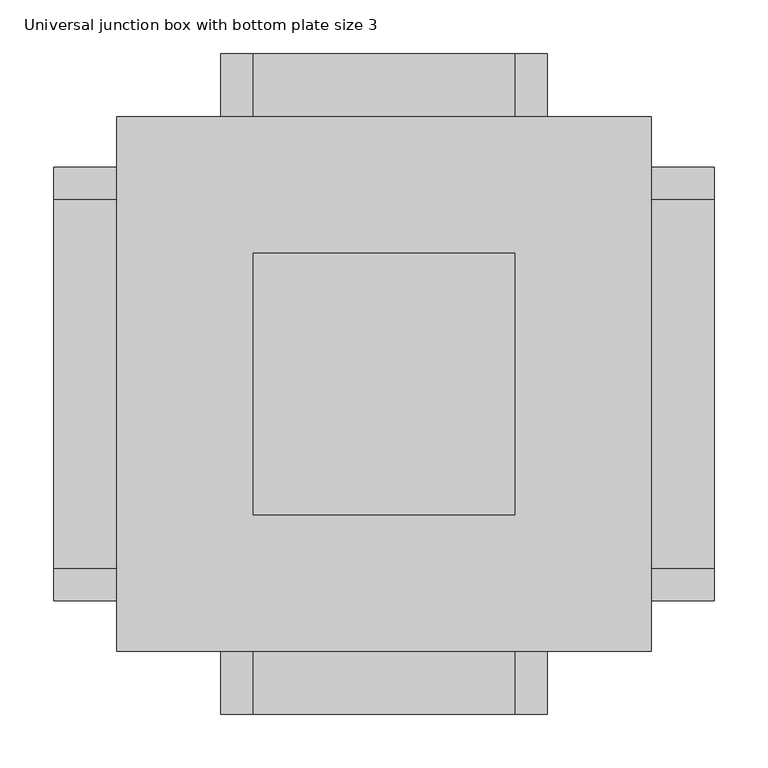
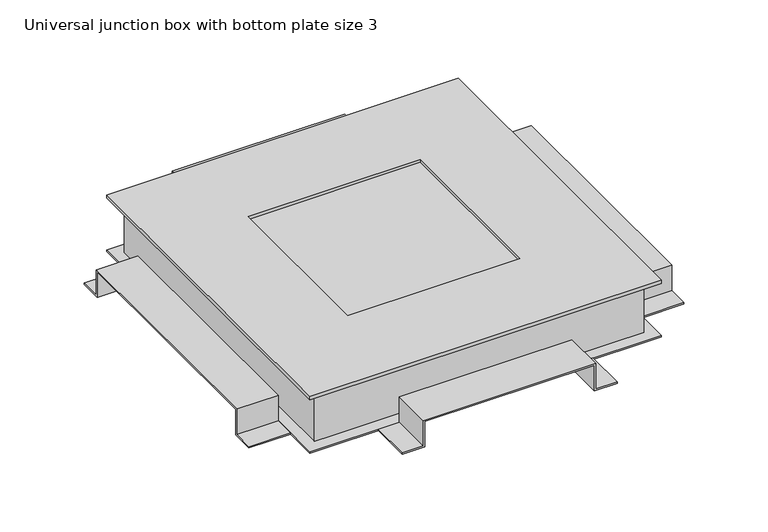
"""IFC4 building model written with IfcOpenShell, lengths in millimetres: cable carrier fitting geometry, Electrical-Installations_Hager_Universal-Junction-Box-With-Bottom-Plate-Size-3 : Universal junction box with bottom plate size 3."""

from ifc_helpers import new_model, si_unit, frame, origin, place, context, project, spatial, polyline, outline, extrude, faceted_brep, source, transform, mapped, element, save


def universal_junction_box_with_bottom_plate_size_3_beba6617(model_context):
    return source(origin(), model_context, "Body", "SolidModel", [
        extrude(outline(polyline([(-19.0, -152.0), (-19.0, -120.0), (19.0, -120.0), (19.0, 120.0), (-19.0, 120.0), (-19.0, 152.0), (-17.0, 152.0), (-17.0, 122.0), (21.0, 122.0), (21.0, -122.0), (-17.0, -122.0), (-17.0, -152.0), (-19.0, -152.0)])), frame((0.0, 249.0, 0.0), z_axis=(0.0, 1.0, 0.0), x_axis=(0.0, 0.0, 1.0)), (0.0, 0.0, 1.0), 59.0),
        extrude(outline(polyline([(-202.0, -19.0), (-202.0, -17.0), (-172.0, -17.0), (-172.0, 21.0), (172.0, 21.0), (172.0, -17.0), (202.0, -17.0), (202.0, -19.0), (170.0, -19.0), (170.0, 19.0), (-170.0, 19.0), (-170.0, -19.0), (-202.0, -19.0)])), frame((-308.0, 0.0, 0.0), z_axis=(1.0, 0.0, 0.0), x_axis=(0.0, 1.0, 0.0)), (0.0, 0.0, 1.0), 59.0),
        extrude(outline(polyline([(-19.0, -152.0), (-19.0, -120.0), (19.0, -120.0), (19.0, 120.0), (-19.0, 120.0), (-19.0, 152.0), (-17.0, 152.0), (-17.0, 122.0), (21.0, 122.0), (21.0, -122.0), (-17.0, -122.0), (-17.0, -152.0), (-19.0, -152.0)])), frame((0.0, -308.0, 0.0), z_axis=(0.0, 1.0, 0.0), x_axis=(0.0, 0.0, 1.0)), (0.0, 0.0, 1.0), 59.0),
        extrude(outline(polyline([(-202.0, -19.0), (-202.0, -17.0), (-172.0, -17.0), (-172.0, 21.0), (172.0, 21.0), (172.0, -17.0), (202.0, -17.0), (202.0, -19.0), (170.0, -19.0), (170.0, 19.0), (-170.0, 19.0), (-170.0, -19.0), (-202.0, -19.0)])), frame((249.0, 0.0, 0.0), z_axis=(1.0, 0.0, 0.0), x_axis=(0.0, 1.0, 0.0)), (0.0, 0.0, 1.0), 59.0),
        faceted_brep([(-249.0, -249.0, 66.0), (249.0, -249.0, 66.0), (249.0, 249.0, 66.0), (-249.0, 249.0, 66.0), (-122.0, 122.0, 66.0), (122.0, 122.0, 66.0), (122.0, -122.0, 66.0), (-122.0, -122.0, 66.0), (-249.0, -249.0, 61.0), (-249.0, 249.0, 61.0), (249.0, 249.0, 61.0), (249.0, -249.0, 61.0), (227.0, 227.0, 61.0), (-227.0, 227.0, 61.0), (-227.0, -227.0, 61.0), (227.0, -227.0, 61.0), (-122.0, 122.0, 61.7820613), (122.0, 122.0, 61.7820613), (122.0, -122.0, 61.7820613), (-122.0, -122.0, 61.7820613), (227.0, 227.0, 61.7820613), (227.0, -227.0, 61.7820613), (-227.0, -227.0, 61.7820613), (-227.0, 227.0, 61.7820613)], [[[0, 1, 2, 3], [4, 5, 6, 7]], [[8, 9, 10, 11], [12, 13, 14, 15]], [[1, 0, 8, 11]], [[2, 1, 11, 10]], [[3, 2, 10, 9]], [[0, 3, 9, 8]], [[5, 4, 16, 17]], [[6, 5, 17, 18]], [[7, 6, 18, 19]], [[4, 7, 19, 16]], [[20, 21, 22, 23], [17, 16, 19, 18]], [[20, 23, 13, 12]], [[23, 22, 14, 13]], [[22, 21, 15, 14]], [[21, 20, 12, 15]]]),
        extrude(outline(polyline([(249.0, 249.0), (249.0, -249.0), (-249.0, -249.0), (-249.0, 249.0), (249.0, 249.0)])), frame((0.0, 0.0, -19.0), z_axis=(0.0, 0.0, 1.0), x_axis=(1.0, 0.0, 0.0)), (0.0, 0.0, 1.0), 2.0),
        faceted_brep([(-233.0, 233.0, 61.0), (-233.0, -233.0, 61.0), (233.0, -233.0, 61.0), (233.0, 233.0, 61.0), (-227.0, 227.0, 61.0), (227.0, 227.0, 61.0), (227.0, -227.0, 61.0), (-227.0, -227.0, 61.0), (-233.0, 233.0, -19.0), (233.0, 233.0, -19.0), (233.0, -233.0, -19.0), (-233.0, -233.0, -19.0), (227.0, 227.0, -11.1362798), (-227.0, 227.0, -11.1362798), (-227.0, -227.0, -11.1362798), (227.0, -227.0, -11.1362798)], [[[0, 1, 2, 3], [4, 5, 6, 7]], [[8, 9, 10, 11]], [[1, 0, 8, 11]], [[2, 1, 11, 10]], [[3, 2, 10, 9]], [[0, 3, 9, 8]], [[12, 13, 14, 15]], [[13, 12, 5, 4]], [[14, 13, 4, 7]], [[15, 14, 7, 6]], [[12, 15, 6, 5]]]),
    ])


if __name__ == "__main__":
    model = new_model("IFC4")
    model_context = context("Model", 3, world=origin())
    ifc_project = project(units=[si_unit("LENGTHUNIT", "METRE", prefix="MILLI")], contexts=[model_context])
    site = spatial("IfcSite", under=ifc_project)
    building = spatial("IfcBuilding", under=site)
    placement = place(None, origin())
    universal_junction_box_with_bottom_plate_size_3_shape = universal_junction_box_with_bottom_plate_size_3_beba6617(model_context)
    element("IfcCableCarrierFitting", 1, ObjectType="Electrical-Installations_Hager_Universal-Junction-Box-With-Bottom-Plate-Size-3 : Universal junction box with bottom plate size 3", at=placement, inside=building, context=model_context, shape_type="MappedRepresentation", body=[
        mapped(universal_junction_box_with_bottom_plate_size_3_shape, transform((0.0, 0.0, 0.0), x_axis=(1.0, 0.0, 0.0), y_axis=(0.0, 1.0, 0.0), z_axis=(0.0, 0.0, 1.0))),
    ])
    save(model, "model.ifc")
